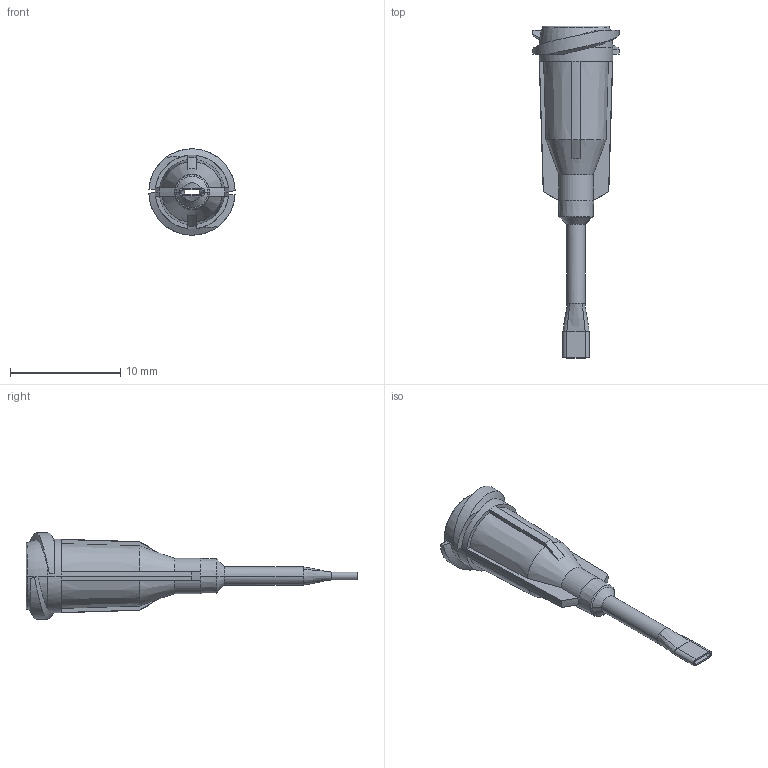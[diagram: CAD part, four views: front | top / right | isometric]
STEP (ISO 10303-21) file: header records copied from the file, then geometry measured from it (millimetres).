
FILE_DESCRIPTION (( 'STEP AP214' ), '1' );
FILE_NAME ('NORDSONEFD-7018077 TIP 15GA GP OVAL X 1-2 AMBER.STEP', '2019-06-13T17:51:25', ( '' ), ( '' ), 'SwSTEP 2.0', 'SolidWorks 2019', '' );
FILE_SCHEMA (( 'AUTOMOTIVE_DESIGN' ));
Length unit declared in the file: inch
Products named in the file (1): NORDSONEFD-7018077 TIP 15GA GP OVAL X 1-2 AMBER
Bounding box: 7.82 x 30.07 x 7.82 mm (x, y, z)
Volume: 263.3 mm3; surface area: 686.4 mm2
Topology: 1 solids, 1 shells, 114 faces, 270 edges, 162 vertices
Faces by surface type: plane 30, cone 22, cylinder 22, torus 20, bspline 20
Entity records: 5692 total; most frequent: CARTESIAN_POINT 2799, ORIENTED_EDGE 540, DIRECTION 526, EDGE_CURVE 270, AXIS2_PLACEMENT_3D 225, VERTEX_POINT 162, CIRCLE 130, EDGE_LOOP 120
